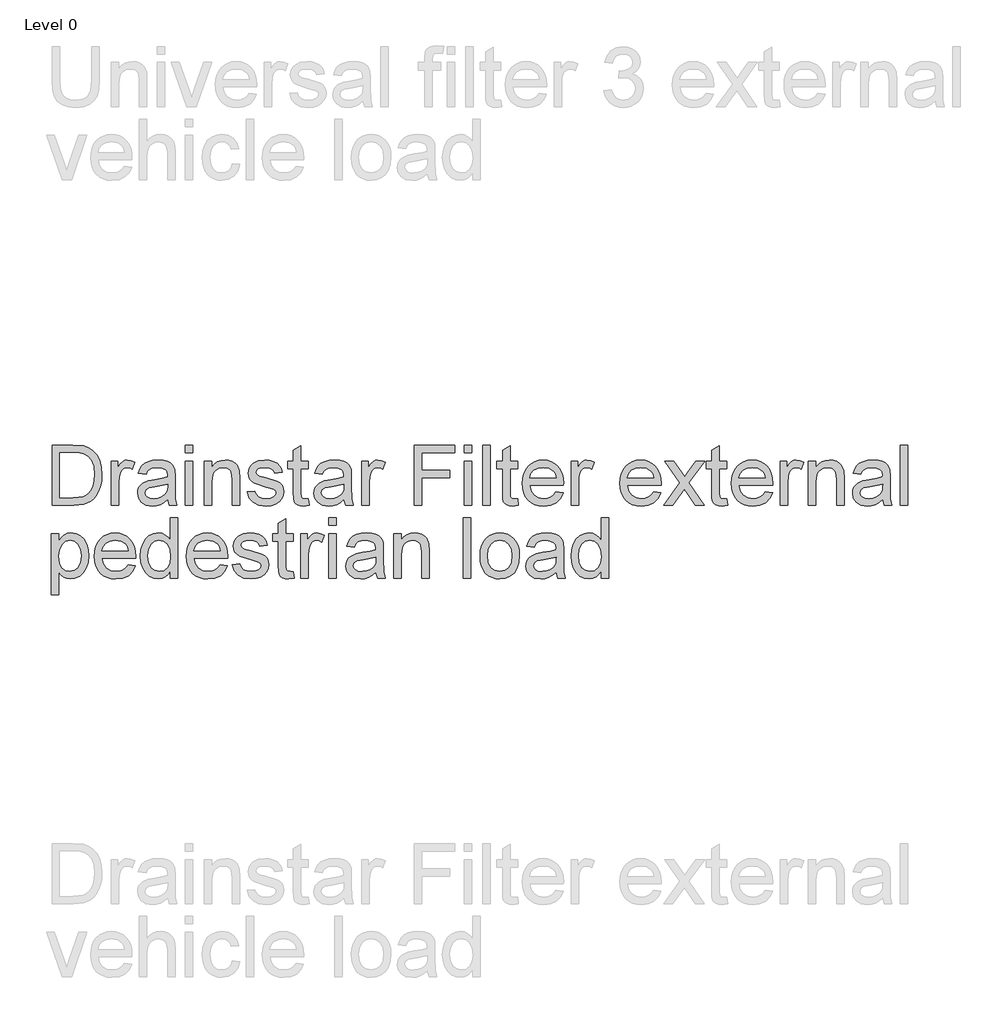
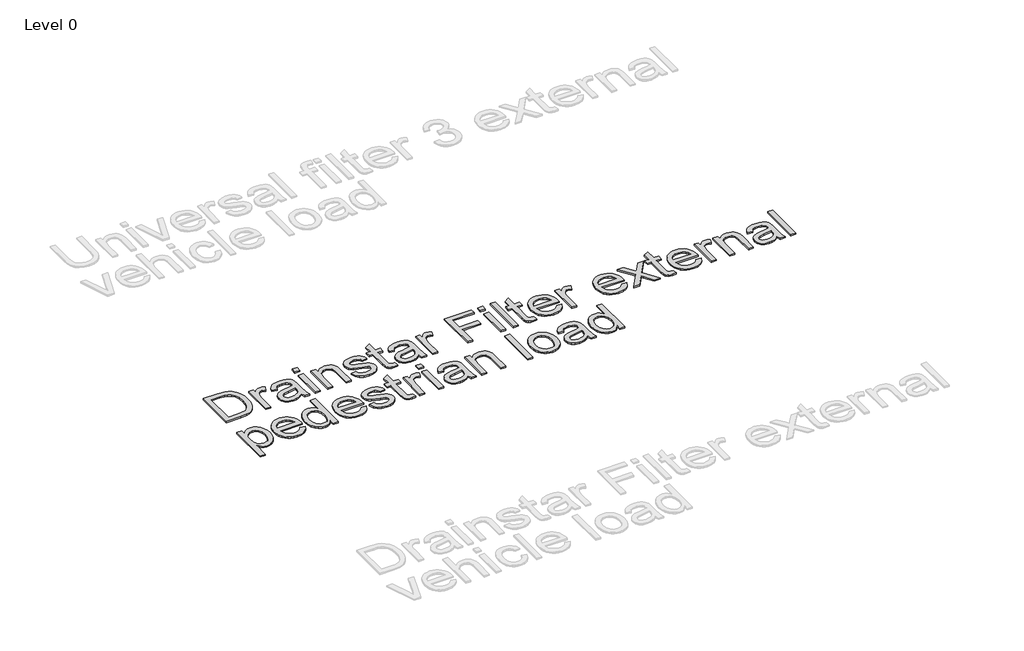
# One storey, part 2 of 10: 1 proxy.
"""IFC4 building model written with IfcOpenShell, lengths in millimetres."""

import ifcopenshell
import ifcopenshell.guid

model = None  # the IFC model being written
_history = None  # IfcOwnerHistory: only IFC2X3 demands one
_inside = {}  # id of a spatial element -> (the spatial element, [elements in it])
_under = {}  # id of a project, library or spatial element -> (it, [spatial elements below it])
_declared = {}  # id of a project -> (the project, [libraries it declares])
_typed = {}  # id of a type object -> (the type object, [elements of that type])
_made_of = {}  # id of a material, layer set ... -> (it, [elements and type objects made of it])


def new_model(schema):
    """Start an empty IFC model of exactly this schema.

    Asked for "IFC4X3", IfcOpenShell would pick the latest addendum, in which some entities
    have other attributes; the version numbers below select the first issue.
    IFC2X3 requires an IfcOwnerHistory on every rooted entity: one is made here for all.
    """
    global model, _history
    if schema == "IFC4X3":
        model = ifcopenshell.file(schema_version=(4, 3, 0, 0))
    else:
        model = ifcopenshell.file(schema=schema)
    _inside.clear()
    _under.clear()
    _declared.clear()
    _typed.clear()
    _made_of.clear()
    _history = None
    if model.schema == "IFC2X3":
        org = make("IfcOrganization", Name="unknown")
        user = make(
            "IfcPersonAndOrganization",
            ThePerson=make("IfcPerson", FamilyName="unknown"),
            TheOrganization=org,
        )
        app = make(
            "IfcApplication",
            ApplicationDeveloper=org,
            Version="unknown",
            ApplicationFullName="unknown",
            ApplicationIdentifier="unknown",
        )
        _history = make(
            "IfcOwnerHistory",
            OwningUser=user,
            OwningApplication=app,
            ChangeAction="ADDED",
            CreationDate=0,
        )
    return model


def make(cls, **values):
    """One entity of the class cls with the attributes given. An attribute that is None is left unset."""
    return model.create_entity(
        cls, **{name: value for name, value in values.items() if value is not None}
    )


def rooted(cls, **values):
    """An entity with a GlobalId (a new one), such as an element, a storey or a relation."""
    return make(cls, GlobalId=ifcopenshell.guid.new(), OwnerHistory=_history, **values)


def si_unit(unit_type, name, prefix=None):
    """IfcSIUnit, for example si_unit("LENGTHUNIT", "METRE", prefix="MILLI")."""
    return make("IfcSIUnit", UnitType=unit_type, Prefix=prefix, Name=name)


def assignment(units):
    """IfcUnitAssignment: the units of a project."""
    return None if units is None else make("IfcUnitAssignment", Units=units)


def point(xyz):
    """IfcCartesianPoint."""
    return None if xyz is None else make("IfcCartesianPoint", Coordinates=xyz)


def direction(xyz):
    """IfcDirection."""
    return None if xyz is None else make("IfcDirection", DirectionRatios=xyz)


def frame(location, z_axis=None, x_axis=None):
    """IfcAxis2Placement3D, a coordinate frame: its origin and axes. An axis left out is left unset."""
    return make(
        "IfcAxis2Placement3D",
        Location=point(location),
        Axis=direction(z_axis),
        RefDirection=direction(x_axis),
    )


def origin():
    """The frame at (0, 0, 0) with its axes left unset."""
    return frame((0.0, 0.0, 0.0))


def origin_with_axes():
    """The frame at (0, 0, 0) with the z axis (0, 0, 1) and the x axis (1, 0, 0) written out."""
    return frame((0.0, 0.0, 0.0), z_axis=(0.0, 0.0, 1.0), x_axis=(1.0, 0.0, 0.0))


def place(relative_to, where):
    """IfcLocalPlacement: puts the frame where relative to a parent placement (None: the world)."""
    return make(
        "IfcLocalPlacement", PlacementRelTo=relative_to, RelativePlacement=where
    )


def context(
    kind, dimensions, precision=None, world=None, true_north=None, identifier=None
):
    """IfcGeometricRepresentationContext, for example the 3D "Model" context."""
    return make(
        "IfcGeometricRepresentationContext",
        ContextIdentifier=identifier,
        ContextType=kind,
        CoordinateSpaceDimension=dimensions,
        Precision=precision,
        WorldCoordinateSystem=world,
        TrueNorth=true_north,
    )


def project(units=None, contexts=None):
    """IfcProject with its units and contexts."""
    return rooted(
        "IfcProject",
        Name="project",
        RepresentationContexts=contexts,
        UnitsInContext=assignment(units),
    )


def spatial(cls, under=None, at=None, **own):
    """A site, building, storey or space (cls), placed at a placement, below another one or the project."""
    s = rooted(cls, ObjectPlacement=at, **own)
    if under is not None:
        _under.setdefault(under.id(), (under, []))[1].append(s)
    return s


def polyline(points):
    """IfcPolyline through the points."""
    return make("IfcPolyline", Points=[point(p) for p in points])


def outline(outer, holes=None, kind="AREA"):
    """IfcArbitraryClosedProfileDef: a profile drawn as a closed curve; with holes, ...WithVoids."""
    if holes is None:
        return make("IfcArbitraryClosedProfileDef", ProfileType=kind, OuterCurve=outer)
    return make(
        "IfcArbitraryProfileDefWithVoids",
        ProfileType=kind,
        OuterCurve=outer,
        InnerCurves=holes,
    )


def extrude(swept, where, along, depth):
    """IfcExtrudedAreaSolid: the profile swept, set in the frame where, extruded along a direction by depth."""
    return make(
        "IfcExtrudedAreaSolid",
        SweptArea=swept,
        Position=where,
        ExtrudedDirection=direction(along),
        Depth=depth,
    )


def shape(context_of_items, identifier, shape_type, items):
    """IfcShapeRepresentation: the items that make up one representation, for example the "Body"."""
    return make(
        "IfcShapeRepresentation",
        ContextOfItems=context_of_items,
        RepresentationIdentifier=identifier,
        RepresentationType=shape_type,
        Items=items,
    )


def made_of(thing, what):
    """Note that an element or type object is made of a material, layer set ...; save() writes the relation."""
    if what is not None:
        _made_of.setdefault(what.id(), (what, []))[1].append(thing)
    return thing


def element(
    cls,
    number,
    at=None,
    inside=None,
    cuts=None,
    type_object=None,
    material=None,
    context=None,
    identifier="Body",
    shape_type=None,
    held_by="IfcProductDefinitionShape",
    body=None,
    shapes=None,
    **own,
):
    """One element of the class cls, such as IfcWall. Its Tag is "e" and its number.

    at: its placement. inside: the storey or other place that contains it. cuts: it is an
    opening in that element (IfcRelVoidsElement). A single representation is given by context,
    identifier, shape_type and body (its items); several are given by shapes. held_by: the class
    of the entity that holds the representations. save() writes the other relations.
    """
    e = rooted(cls, Tag="e%d" % number, ObjectPlacement=at, **own)
    if body is not None:
        shapes = [shape(context, identifier, shape_type, body)]
    if shapes is not None:
        e.Representation = make(held_by, Representations=shapes)
    if inside is not None:
        _inside.setdefault(inside.id(), (inside, []))[1].append(e)
    if cuts is not None:
        rooted(
            "IfcRelVoidsElement", RelatingBuildingElement=cuts, RelatedOpeningElement=e
        )
    if type_object is not None:
        _typed.setdefault(type_object.id(), (type_object, []))[1].append(e)
    return made_of(e, material)


def aggregate(whole, parts):
    """IfcRelAggregates: a whole, such as a stair, and the parts it consists of."""
    return rooted("IfcRelAggregates", RelatingObject=whole, RelatedObjects=parts)


def save(model, path):
    """Write the relations noted so far, then the file.

    IfcRelAggregates (storeys below a building ...), IfcRelContainedInSpatialStructure (elements
    in a storey), IfcRelDefinesByType, IfcRelAssociatesMaterial and IfcRelDeclares: one each for
    every whole, place, type object, material and project.
    """
    for whole, parts in _under.values():
        aggregate(whole, parts)
    for where, things in _inside.values():
        rooted(
            "IfcRelContainedInSpatialStructure",
            RelatedElements=things,
            RelatingStructure=where,
        )
    for kind, things in _typed.values():
        rooted("IfcRelDefinesByType", RelatedObjects=things, RelatingType=kind)
    for what, things in _made_of.values():
        rooted("IfcRelAssociatesMaterial", RelatedObjects=things, RelatingMaterial=what)
    for by, libraries in _declared.values():
        rooted("IfcRelDeclares", RelatingContext=by, RelatedDefinitions=libraries)
    model.write(path)


model = new_model("IFC4")

# Units and contexts
model_context = context("Model", 3, world=origin())
ifc_project = project(units=[si_unit("LENGTHUNIT", "METRE", prefix="MILLI")], contexts=[model_context])

# Site, building, storey
site = spatial("IfcSite", under=ifc_project)
building = spatial("IfcBuilding", under=site)
storey = spatial("IfcBuildingStorey", under=building, Name="Level 0", Elevation=0.0)

# Proxy
placement = place(None, origin())
element("IfcBuildingElementProxy", 1, Name="300mm Arial", ObjectType="300mm Arial", at=placement, inside=storey, context=model_context, shape_type="SweptSolid", body=[
    extrude(outline(polyline([(-15382.3152979, 2427.0720402), (-15382.3152979, 2728.4409706), (-15278.3518461, 2728.4409706), (-15224.5674984, 2724.0999631), (-15200.5448041, 2715.7306477), (-15180.2745062, 2702.5420782), (-15159.4339912, 2679.5862417), (-15144.5899527, 2651.0385989), (-15135.7056025, 2617.4509727), (-15132.7441524, 2579.3751862), (-15134.7491093, 2547.0291618), (-15140.7639799, 2518.5642924), (-15149.9242416, 2494.330066), (-15161.3653716, 2474.6759704), (-15174.5355471, 2459.1605472), (-15188.8829449, 2447.3423381), (-15205.3548612, 2438.5775496), (-15224.8985922, 2432.2223881), (-15273.348651, 2427.0720402), (-15382.3152979, 2427.0720402)]), holes=[polyline([(-15344.6441816, 2464.7431565), (-15277.9839641, 2464.7431565), (-15250.4112086, 2466.1043199), (-15229.4971172, 2470.18781), (-15213.7149796, 2476.7545036), (-15201.5380855, 2485.5652774), (-15188.4506835, 2501.8716469), (-15178.6190372, 2522.9788763), (-15172.4662108, 2548.9789363), (-15170.4152687, 2579.9637974), (-15174.4343795, 2621.0194281), (-15186.4917119, 2651.3329045), (-15204.3063975, 2672.1550254), (-15225.597568, 2684.7365896), (-15247.2658175, 2689.2615382), (-15279.0140337, 2690.7698543), (-15344.6441816, 2690.7698543), (-15344.6441816, 2464.7431565)])]), origin_with_axes(), (0.0, 0.0, 1.0), 10.0),
    extrude(outline(polyline([(-15085.655257, 2427.0720402), (-15085.655257, 2648.3898485), (-15052.6930303, 2648.3898485), (-15052.6930303, 2615.6483509), (-15040.5161362, 2634.6310619), (-15029.2957354, 2645.8146745), (-15018.0385463, 2651.2777222), (-15005.7512877, 2653.098738), (-14986.9893059, 2650.1924703), (-14967.9330186, 2641.473667), (-14980.5145828, 2607.7020998), (-14993.7583346, 2613.4962413), (-15007.0020865, 2615.4276217), (-15018.2500785, 2613.5698177), (-15028.302454, 2607.9964054), (-15036.423449, 2599.1304493), (-15041.8772996, 2587.3950137), (-15046.4574305, 2566.3521636), (-15047.9841407, 2543.3963271), (-15047.9841407, 2427.0720402), (-15085.655257, 2427.0720402)])), origin_with_axes(), (0.0, 0.0, 1.0), 10.0),
    extrude(outline(polyline([(-14803.1218847, 2455.3253774), (-14821.1205114, 2439.8927277), (-14839.6525669, 2429.794367), (-14859.1411156, 2424.2209547), (-14880.0092217, 2422.3631507), (-14911.4907235, 2426.8329169), (-14934.7132744, 2440.2422156), (-14949.0330811, 2460.6044841), (-14953.80635, 2485.9331594), (-14952.0037282, 2501.5497501), (-14946.5958629, 2515.731601), (-14938.2541386, 2527.8717069), (-14927.6499401, 2537.3630624), (-14901.2728011, 2549.7238974), (-14868.6784563, 2555.3892801), (-14830.1612114, 2561.3489684), (-14803.3426139, 2568.3387263), (-14803.1218847, 2576.7264358), (-14805.7154528, 2593.538643), (-14813.496157, 2604.5383147), (-14830.8969754, 2612.705295), (-14855.1403989, 2615.4276217), (-14877.5812006, 2613.6158029), (-14893.2529736, 2608.1803464), (-14903.9399455, 2598.1279709), (-14911.4263441, 2582.465395), (-14949.0974604, 2587.1742845), (-14942.558358, 2607.7756762), (-14932.800288, 2623.962484), (-14918.9127427, 2636.3417132), (-14899.9852141, 2645.5203689), (-14876.8362395, 2651.2041458), (-14850.2843565, 2653.098738), (-14824.8177254, 2651.424875), (-14804.6302009, 2646.4032857), (-14789.4090834, 2638.8525078), (-14778.8416731, 2629.5910785), (-14771.8335211, 2618.1407514), (-14767.2901784, 2604.0232799), (-14765.4507684, 2571.0610531), (-14765.4507684, 2524.1928869), (-14763.5377821, 2458.74668), (-14756.0329894, 2427.0720402), (-14793.7041057, 2427.0720402), (-14803.1218847, 2455.3253774)]), holes=[polyline([(-14803.1218847, 2530.66761), (-14863.8959903, 2519.1161154), (-14896.3063941, 2513.0092743), (-14910.9848857, 2503.0764604), (-14916.1352337, 2488.5819098), (-14913.3301334, 2477.379903), (-14904.9148328, 2468.2012473), (-14891.0732727, 2462.076012), (-14871.9893942, 2460.034267), (-14851.7558845, 2462.2875442), (-14833.8768195, 2469.0473758), (-14819.3822689, 2479.0077809), (-14809.3023023, 2490.8627782), (-14804.832536, 2503.0764604), (-14803.3426139, 2519.9990322), (-14803.1218847, 2530.66761)])]), origin_with_axes(), (0.0, 0.0, 1.0), 10.0),
    extrude(outline(polyline([(-14713.6529835, 2690.7698543), (-14713.6529835, 2728.4409706), (-14675.9818672, 2728.4409706), (-14675.9818672, 2690.7698543), (-14713.6529835, 2690.7698543)])), origin_with_axes(), (0.0, 0.0, 1.0), 10.0),
    extrude(outline(polyline([(-14713.6529835, 2427.0720402), (-14713.6529835, 2648.3898485), (-14675.9818672, 2648.3898485), (-14675.9818672, 2427.0720402), (-14713.6529835, 2427.0720402)])), origin_with_axes(), (0.0, 0.0, 1.0), 10.0),
    extrude(outline(polyline([(-14619.4751927, 2427.0720402), (-14619.4751927, 2648.3898485), (-14581.8040764, 2648.3898485), (-14581.8040764, 2617.4877609), (-14568.7166745, 2633.0675634), (-14552.9989162, 2644.1959938), (-14534.6508017, 2650.873052), (-14513.6723309, 2653.098738), (-14495.1034872, 2651.3053133), (-14478.098142, 2645.9250391), (-14463.9162911, 2637.6293001), (-14453.8179303, 2627.089481), (-14442.5239531, 2599.3879667), (-14440.5373903, 2562.9676492), (-14440.5373903, 2427.0720402), (-14478.2085066, 2427.0720402), (-14478.2085066, 2557.8908777), (-14482.5495141, 2591.2209864), (-14488.5551877, 2601.1446033), (-14497.8901933, 2608.842534), (-14509.8555552, 2613.7813498), (-14523.7522976, 2615.4276217), (-14545.8160203, 2611.7304077), (-14564.6239873, 2600.6387655), (-14572.1402763, 2591.5842699), (-14577.5090541, 2579.2096393), (-14581.8040764, 2544.4999731), (-14581.8040764, 2427.0720402), (-14619.4751927, 2427.0720402)])), origin_with_axes(), (0.0, 0.0, 1.0), 10.0),
    extrude(outline(polyline([(-14402.866274, 2492.9964937), (-14365.1951577, 2497.7053833), (-14359.2538635, 2481.5921519), (-14347.7575511, 2469.7463516), (-14330.6326442, 2462.4622881), (-14307.8055664, 2460.034267), (-14285.2544001, 2462.259953), (-14269.3986861, 2468.9370112), (-14260.0176953, 2478.6123077), (-14256.8906983, 2489.8327086), (-14260.0360894, 2499.4344286), (-14269.4722625, 2506.7552804), (-14308.2470248, 2517.4974346), (-14364.9744285, 2535.9283226), (-14379.3310233, 2545.1897518), (-14389.7328868, 2557.4494193), (-14396.05126, 2571.9255758), (-14398.1573845, 2587.8364721), (-14396.4651273, 2602.4321902), (-14391.3883557, 2615.9058683), (-14383.3869223, 2627.7240774), (-14372.9206796, 2637.3533886), (-14348.9715617, 2648.5002131), (-14316.5611579, 2653.098738), (-14292.0418229, 2651.250131), (-14270.7230613, 2645.7043099), (-14253.5797603, 2637.0039007), (-14241.5868073, 2625.6915294), (-14233.6405562, 2610.9302643), (-14228.6373611, 2591.883174), (-14266.3084774, 2587.1742845), (-14271.0633522, 2599.0292818), (-14280.4719342, 2607.9596172), (-14294.626194, 2613.5606206), (-14313.618102, 2615.4276217), (-14335.2495633, 2613.6433941), (-14349.6705375, 2608.290711), (-14357.7823355, 2600.5651891), (-14360.4862681, 2591.6624448), (-14355.9981078, 2580.6995614), (-14341.9450156, 2572.3854283), (-14309.4978236, 2564.3656008), (-14254.2051597, 2546.6336886), (-14239.6002445, 2538.1540086), (-14228.5269965, 2526.5473317), (-14221.5464356, 2511.7768696), (-14219.219582, 2493.8058341), (-14221.9511058, 2475.2277934), (-14230.1456773, 2457.7533986), (-14243.4905966, 2442.7530102), (-14261.6731642, 2431.5969887), (-14283.6357194, 2424.6716102), (-14308.3206012, 2422.3631507), (-14346.3044172, 2426.8145228), (-14374.0243256, 2440.1686392), (-14392.5287899, 2462.2783471), (-14402.866274, 2492.9964937)])), origin_with_axes(), (0.0, 0.0, 1.0), 10.0),
    extrude(outline(polyline([(-14096.788454, 2458.4891626), (-14092.0795645, 2425.9683942), (-14120.2593253, 2422.3631507), (-14138.3407254, 2423.9266491), (-14151.8236005, 2428.6171446), (-14161.3517442, 2435.8460258), (-14167.5689499, 2445.0246816), (-14170.9902524, 2460.7884251), (-14172.1306866, 2487.7725694), (-14172.1306866, 2610.7187322), (-14200.3840238, 2610.7187322), (-14200.3840238, 2648.3898485), (-14172.1306866, 2648.3898485), (-14172.1306866, 2702.1741962), (-14134.4595703, 2724.3206923), (-14134.4595703, 2648.3898485), (-14096.788454, 2648.3898485), (-14096.788454, 2610.7187322), (-14134.4595703, 2610.7187322), (-14134.4595703, 2488.8762154), (-14132.4730075, 2469.452046), (-14126.0350726, 2462.5726527), (-14113.195991, 2460.034267), (-14096.788454, 2458.4891626)])), origin_with_axes(), (0.0, 0.0, 1.0), 10.0),
    extrude(outline(polyline([(-13917.8506515, 2455.3253774), (-13935.8492782, 2439.8927277), (-13954.3813337, 2429.794367), (-13973.8698824, 2424.2209547), (-13994.7379885, 2422.3631507), (-14026.2194903, 2426.8329169), (-14049.4420412, 2440.2422156), (-14063.7618479, 2460.6044841), (-14068.5351168, 2485.9331594), (-14066.732495, 2501.5497501), (-14061.3246297, 2515.731601), (-14052.9829054, 2527.8717069), (-14042.3787069, 2537.3630624), (-14016.0015679, 2549.7238974), (-13983.4072231, 2555.3892801), (-13944.8899782, 2561.3489684), (-13918.0713807, 2568.3387263), (-13917.8506515, 2576.7264358), (-13920.4442196, 2593.538643), (-13928.2249238, 2604.5383147), (-13945.6257422, 2612.705295), (-13969.8691657, 2615.4276217), (-13992.3099674, 2613.6158029), (-14007.9817404, 2608.1803464), (-14018.6687123, 2598.1279709), (-14026.1551109, 2582.465395), (-14063.8262272, 2587.1742845), (-14057.2871248, 2607.7756762), (-14047.5290548, 2623.962484), (-14033.6415095, 2636.3417132), (-14014.7139809, 2645.5203689), (-13991.5650063, 2651.2041458), (-13965.0131233, 2653.098738), (-13939.5464922, 2651.424875), (-13919.3589677, 2646.4032857), (-13904.1378502, 2638.8525078), (-13893.5704399, 2629.5910785), (-13886.5622879, 2618.1407514), (-13882.0189452, 2604.0232799), (-13880.1795352, 2571.0610531), (-13880.1795352, 2524.1928869), (-13878.2665489, 2458.74668), (-13870.7617562, 2427.0720402), (-13908.4328725, 2427.0720402), (-13917.8506515, 2455.3253774)]), holes=[polyline([(-13917.8506515, 2530.66761), (-13978.6247572, 2519.1161154), (-14011.0351609, 2513.0092743), (-14025.7136525, 2503.0764604), (-14030.8640005, 2488.5819098), (-14028.0589003, 2477.379903), (-14019.6435996, 2468.2012473), (-14005.8020395, 2462.076012), (-13986.718161, 2460.034267), (-13966.4846513, 2462.2875442), (-13948.6055863, 2469.0473758), (-13934.1110357, 2479.0077809), (-13924.0310691, 2490.8627782), (-13919.5613028, 2503.0764604), (-13918.0713807, 2519.9990322), (-13917.8506515, 2530.66761)])]), origin_with_axes(), (0.0, 0.0, 1.0), 10.0),
    extrude(outline(polyline([(-13828.3817503, 2427.0720402), (-13828.3817503, 2648.3898485), (-13795.4195236, 2648.3898485), (-13795.4195236, 2615.6483509), (-13783.2426295, 2634.6310619), (-13772.0222287, 2645.8146745), (-13760.7650396, 2651.2777222), (-13748.477781, 2653.098738), (-13729.7157992, 2650.1924703), (-13710.6595119, 2641.473667), (-13723.2410761, 2607.7020998), (-13736.4848279, 2613.4962413), (-13749.7285798, 2615.4276217), (-13760.9765718, 2613.5698177), (-13771.0289473, 2607.9964054), (-13779.1499423, 2599.1304493), (-13784.6037929, 2587.3950137), (-13789.1839237, 2566.3521636), (-13790.710634, 2543.3963271), (-13790.710634, 2427.0720402), (-13828.3817503, 2427.0720402)])), origin_with_axes(), (0.0, 0.0, 1.0), 10.0),
    extrude(outline(polyline([(-13564.6839362, 2427.0720402), (-13564.6839362, 2728.4409706), (-13362.201686, 2728.4409706), (-13362.201686, 2690.7698543), (-13527.0128199, 2690.7698543), (-13527.0128199, 2601.3009531), (-13385.7461337, 2601.3009531), (-13385.7461337, 2563.6298368), (-13527.0128199, 2563.6298368), (-13527.0128199, 2427.0720402), (-13564.6839362, 2427.0720402)])), origin_with_axes(), (0.0, 0.0, 1.0), 10.0),
    extrude(outline(polyline([(-13315.1127907, 2690.7698543), (-13315.1127907, 2728.4409706), (-13277.4416743, 2728.4409706), (-13277.4416743, 2690.7698543), (-13315.1127907, 2690.7698543)])), origin_with_axes(), (0.0, 0.0, 1.0), 10.0),
    extrude(outline(polyline([(-13315.1127907, 2427.0720402), (-13315.1127907, 2648.3898485), (-13277.4416743, 2648.3898485), (-13277.4416743, 2427.0720402), (-13315.1127907, 2427.0720402)])), origin_with_axes(), (0.0, 0.0, 1.0), 10.0),
    extrude(outline(polyline([(-13220.9349999, 2427.0720402), (-13220.9349999, 2728.4409706), (-13183.2638836, 2728.4409706), (-13183.2638836, 2427.0720402), (-13220.9349999, 2427.0720402)])), origin_with_axes(), (0.0, 0.0, 1.0), 10.0),
    extrude(outline(polyline([(-13046.706087, 2458.4891626), (-13041.9971974, 2425.9683942), (-13070.1769583, 2422.3631507), (-13088.2583583, 2423.9266491), (-13101.7412334, 2428.6171446), (-13111.2693771, 2435.8460258), (-13117.4865828, 2445.0246816), (-13120.9078854, 2460.7884251), (-13122.0483196, 2487.7725694), (-13122.0483196, 2610.7187322), (-13150.3016568, 2610.7187322), (-13150.3016568, 2648.3898485), (-13122.0483196, 2648.3898485), (-13122.0483196, 2702.1741962), (-13084.3772033, 2724.3206923), (-13084.3772033, 2648.3898485), (-13046.706087, 2648.3898485), (-13046.706087, 2610.7187322), (-13084.3772033, 2610.7187322), (-13084.3772033, 2488.8762154), (-13082.3906405, 2469.452046), (-13075.9527056, 2462.5726527), (-13063.113624, 2460.034267), (-13046.706087, 2458.4891626)])), origin_with_axes(), (0.0, 0.0, 1.0), 10.0),
    extrude(outline(polyline([(-12854.0830743, 2492.9964937), (-12817.147722, 2488.2876042), (-12830.4558532, 2460.4573313), (-12851.6918413, 2439.6536044), (-12880.3774399, 2426.6857641), (-12916.0344023, 2422.3631507), (-12939.4087046, 2424.2278525), (-12960.235424, 2429.8219581), (-12978.5145606, 2439.1454674), (-12994.2461145, 2452.1983805), (-13006.8966566, 2468.6174138), (-13015.9327581, 2488.0392838), (-13021.354419, 2510.4639907), (-13023.1616393, 2535.8915344), (-13021.3360249, 2562.1813015), (-13015.8591817, 2585.3532686), (-13006.7311097, 2605.4074359), (-12993.9518089, 2622.3438032), (-12978.2616418, 2635.7990872), (-12960.4009709, 2645.4100043), (-12940.3697963, 2651.1765546), (-12918.1681179, 2653.098738), (-12896.6815101, 2651.1811531), (-12877.2504429, 2645.4283984), (-12859.8749165, 2635.8404739), (-12844.5549306, 2622.4173796), (-12832.049242, 2605.5178005), (-12823.1166074, 2585.5004214), (-12817.7570265, 2562.3652424), (-12815.9704996, 2536.1122636), (-12816.1912288, 2525.9587205), (-12985.490523, 2525.9587205), (-12978.9698146, 2497.7605656), (-12963.8222735, 2477.0304151), (-12941.9608859, 2464.283304), (-12915.2986383, 2460.034267), (-12895.2490696, 2462.0024356), (-12878.363286, 2467.9069417), (-12864.6412876, 2478.115667), (-12854.0830743, 2492.9964937)]), holes=[polyline([(-12985.490523, 2563.6298368), (-12853.6416159, 2563.6298368), (-12858.7367815, 2583.5322527), (-12868.7247777, 2597.769286), (-12890.6873328, 2611.0130378), (-12918.3152707, 2615.4276217), (-12943.7083254, 2611.9051516), (-12964.7051902, 2601.3377413), (-12979.3009084, 2584.865825), (-12985.490523, 2563.6298368)])]), origin_with_axes(), (0.0, 0.0, 1.0), 10.0),
    extrude(outline(polyline([(-12778.2993833, 2427.0720402), (-12778.2993833, 2648.3898485), (-12745.3371565, 2648.3898485), (-12745.3371565, 2615.6483509), (-12733.1602625, 2634.6310619), (-12721.9398616, 2645.8146745), (-12710.6826726, 2651.2777222), (-12698.3954139, 2653.098738), (-12679.6334322, 2650.1924703), (-12660.5771448, 2641.473667), (-12673.1587091, 2607.7020998), (-12686.4024609, 2613.4962413), (-12699.6462127, 2615.4276217), (-12710.8942047, 2613.5698177), (-12720.9465802, 2607.9964054), (-12729.0675753, 2599.1304493), (-12734.5214259, 2587.3950137), (-12739.1015567, 2566.3521636), (-12740.628267, 2543.3963271), (-12740.628267, 2427.0720402), (-12778.2993833, 2427.0720402)])), origin_with_axes(), (0.0, 0.0, 1.0), 10.0),
    extrude(outline(polyline([(-12364.3585623, 2492.9964937), (-12327.42321, 2488.2876042), (-12340.7313412, 2460.4573313), (-12361.9673293, 2439.6536044), (-12390.6529279, 2426.6857641), (-12426.3098903, 2422.3631507), (-12449.6841926, 2424.2278525), (-12470.510912, 2429.8219581), (-12488.7900487, 2439.1454674), (-12504.5216025, 2452.1983805), (-12517.1721446, 2468.6174138), (-12526.2082461, 2488.0392838), (-12531.629907, 2510.4639907), (-12533.4371273, 2535.8915344), (-12531.6115129, 2562.1813015), (-12526.1346697, 2585.3532686), (-12517.0065977, 2605.4074359), (-12504.2272969, 2622.3438032), (-12488.5371298, 2635.7990872), (-12470.6764589, 2645.4100043), (-12450.6452843, 2651.1765546), (-12428.4436059, 2653.098738), (-12406.9569981, 2651.1811531), (-12387.525931, 2645.4283984), (-12370.1504045, 2635.8404739), (-12354.8304186, 2622.4173796), (-12342.3247301, 2605.5178005), (-12333.3920954, 2585.5004214), (-12328.0325146, 2562.3652424), (-12326.2459876, 2536.1122636), (-12326.4667168, 2525.9587205), (-12495.766011, 2525.9587205), (-12489.2453026, 2497.7605656), (-12474.0977615, 2477.0304151), (-12452.2363739, 2464.283304), (-12425.5741263, 2460.034267), (-12405.5245576, 2462.0024356), (-12388.638774, 2467.9069417), (-12374.9167756, 2478.115667), (-12364.3585623, 2492.9964937)]), holes=[polyline([(-12495.766011, 2563.6298368), (-12363.9171039, 2563.6298368), (-12369.0122696, 2583.5322527), (-12379.0002657, 2597.769286), (-12400.9628208, 2611.0130378), (-12428.5907587, 2615.4276217), (-12453.9838134, 2611.9051516), (-12474.9806783, 2601.3377413), (-12489.5763964, 2584.865825), (-12495.766011, 2563.6298368)])]), origin_with_axes(), (0.0, 0.0, 1.0), 10.0),
    extrude(outline(polyline([(-12312.119319, 2427.0720402), (-12231.6267385, 2538.3195555), (-12307.4104295, 2648.3898485), (-12262.0873677, 2648.3898485), (-12225.5198973, 2595.4148412), (-12208.4501728, 2570.3988655), (-12193.6613166, 2590.8531045), (-12152.0170747, 2648.3898485), (-12106.6940129, 2648.3898485), (-12186.3036766, 2538.3195555), (-12109.6370689, 2427.0720402), (-12154.9601307, 2427.0720402), (-12201.0925329, 2493.9529869), (-12209.5538187, 2506.1666692), (-12266.7962572, 2427.0720402), (-12312.119319, 2427.0720402)])), origin_with_axes(), (0.0, 0.0, 1.0), 10.0),
    extrude(outline(polyline([(-11996.6237199, 2458.4891626), (-11991.9148304, 2425.9683942), (-12020.0945912, 2422.3631507), (-12038.1759913, 2423.9266491), (-12051.6588664, 2428.6171446), (-12061.1870101, 2435.8460258), (-12067.4042158, 2445.0246816), (-12070.8255184, 2460.7884251), (-12071.9659525, 2487.7725694), (-12071.9659525, 2610.7187322), (-12100.2192898, 2610.7187322), (-12100.2192898, 2648.3898485), (-12071.9659525, 2648.3898485), (-12071.9659525, 2702.1741962), (-12034.2948362, 2724.3206923), (-12034.2948362, 2648.3898485), (-11996.6237199, 2648.3898485), (-11996.6237199, 2610.7187322), (-12034.2948362, 2610.7187322), (-12034.2948362, 2488.8762154), (-12032.3082735, 2469.452046), (-12025.8703386, 2462.5726527), (-12013.0312569, 2460.034267), (-11996.6237199, 2458.4891626)])), origin_with_axes(), (0.0, 0.0, 1.0), 10.0),
    extrude(outline(polyline([(-11804.0007073, 2492.9964937), (-11767.0653549, 2488.2876042), (-11780.3734861, 2460.4573313), (-11801.6094743, 2439.6536044), (-11830.2950729, 2426.6857641), (-11865.9520352, 2422.3631507), (-11889.3263375, 2424.2278525), (-11910.153057, 2429.8219581), (-11928.4321936, 2439.1454674), (-11944.1637474, 2452.1983805), (-11956.8142895, 2468.6174138), (-11965.850391, 2488.0392838), (-11971.2720519, 2510.4639907), (-11973.0792722, 2535.8915344), (-11971.2536578, 2562.1813015), (-11965.7768146, 2585.3532686), (-11956.6487426, 2605.4074359), (-11943.8694418, 2622.3438032), (-11928.1792747, 2635.7990872), (-11910.3186039, 2645.4100043), (-11890.2874292, 2651.1765546), (-11868.0857508, 2653.098738), (-11846.599143, 2651.1811531), (-11827.1680759, 2645.4283984), (-11809.7925494, 2635.8404739), (-11794.4725636, 2622.4173796), (-11781.966875, 2605.5178005), (-11773.0342403, 2585.5004214), (-11767.6746595, 2562.3652424), (-11765.8881326, 2536.1122636), (-11766.1088618, 2525.9587205), (-11935.4081559, 2525.9587205), (-11928.8874476, 2497.7605656), (-11913.7399064, 2477.0304151), (-11891.8785189, 2464.283304), (-11865.2162713, 2460.034267), (-11845.1667025, 2462.0024356), (-11828.2809189, 2467.9069417), (-11814.5589205, 2478.115667), (-11804.0007073, 2492.9964937)]), holes=[polyline([(-11935.4081559, 2563.6298368), (-11803.5592489, 2563.6298368), (-11808.6544145, 2583.5322527), (-11818.6424107, 2597.769286), (-11840.6049658, 2611.0130378), (-11868.2329036, 2615.4276217), (-11893.6259583, 2611.9051516), (-11914.6228232, 2601.3377413), (-11929.2185414, 2584.865825), (-11935.4081559, 2563.6298368)])]), origin_with_axes(), (0.0, 0.0, 1.0), 10.0),
    extrude(outline(polyline([(-11728.2170163, 2427.0720402), (-11728.2170163, 2648.3898485), (-11695.2547895, 2648.3898485), (-11695.2547895, 2615.6483509), (-11683.0778954, 2634.6310619), (-11671.8574946, 2645.8146745), (-11660.6003055, 2651.2777222), (-11648.3130469, 2653.098738), (-11629.5510651, 2650.1924703), (-11610.4947778, 2641.473667), (-11623.076342, 2607.7020998), (-11636.3200939, 2613.4962413), (-11649.5638457, 2615.4276217), (-11660.8118377, 2613.5698177), (-11670.8642132, 2607.9964054), (-11678.9852083, 2599.1304493), (-11684.4390588, 2587.3950137), (-11689.0191897, 2566.3521636), (-11690.5458999, 2543.3963271), (-11690.5458999, 2427.0720402), (-11728.2170163, 2427.0720402)])), origin_with_axes(), (0.0, 0.0, 1.0), 10.0),
    extrude(outline(polyline([(-11586.9503301, 2427.0720402), (-11586.9503301, 2648.3898485), (-11549.2792138, 2648.3898485), (-11549.2792138, 2617.4877609), (-11536.1918118, 2633.0675634), (-11520.4740536, 2644.1959938), (-11502.1259391, 2650.873052), (-11481.1474683, 2653.098738), (-11462.5786246, 2651.3053133), (-11445.5732794, 2645.9250391), (-11431.3914284, 2637.6293001), (-11421.2930677, 2627.089481), (-11409.9990904, 2599.3879667), (-11408.0125277, 2562.9676492), (-11408.0125277, 2427.0720402), (-11445.683644, 2427.0720402), (-11445.683644, 2557.8908777), (-11450.0246515, 2591.2209864), (-11456.0303251, 2601.1446033), (-11465.3653307, 2608.842534), (-11477.3306926, 2613.7813498), (-11491.227435, 2615.4276217), (-11513.2911576, 2611.7304077), (-11532.0991246, 2600.6387655), (-11539.6154136, 2591.5842699), (-11544.9841915, 2579.2096393), (-11549.2792138, 2544.4999731), (-11549.2792138, 2427.0720402), (-11586.9503301, 2427.0720402)])), origin_with_axes(), (0.0, 0.0, 1.0), 10.0),
    extrude(outline(polyline([(-11214.9480566, 2455.3253774), (-11232.9466832, 2439.8927277), (-11251.4787387, 2429.794367), (-11270.9672874, 2424.2209547), (-11291.8353936, 2422.3631507), (-11323.3168953, 2426.8329169), (-11346.5394463, 2440.2422156), (-11360.8592529, 2460.6044841), (-11365.6325218, 2485.9331594), (-11363.8299, 2501.5497501), (-11358.4220347, 2515.731601), (-11350.0803105, 2527.8717069), (-11339.476112, 2537.3630624), (-11313.0989729, 2549.7238974), (-11280.5046281, 2555.3892801), (-11241.9873832, 2561.3489684), (-11215.1687858, 2568.3387263), (-11214.9480566, 2576.7264358), (-11217.5416247, 2593.538643), (-11225.3223288, 2604.5383147), (-11242.7231472, 2612.705295), (-11266.9665707, 2615.4276217), (-11289.4073724, 2613.6158029), (-11305.0791454, 2608.1803464), (-11315.7661174, 2598.1279709), (-11323.252516, 2582.465395), (-11360.9236323, 2587.1742845), (-11354.3845298, 2607.7756762), (-11344.6264599, 2623.962484), (-11330.7389146, 2636.3417132), (-11311.8113859, 2645.5203689), (-11288.6624114, 2651.2041458), (-11262.1105284, 2653.098738), (-11236.6438973, 2651.424875), (-11216.4563728, 2646.4032857), (-11201.2352552, 2638.8525078), (-11190.6678449, 2629.5910785), (-11183.6596929, 2618.1407514), (-11179.1163503, 2604.0232799), (-11177.2769403, 2571.0610531), (-11177.2769403, 2524.1928869), (-11175.3639539, 2458.74668), (-11167.8591612, 2427.0720402), (-11205.5302775, 2427.0720402), (-11214.9480566, 2455.3253774)]), holes=[polyline([(-11214.9480566, 2530.66761), (-11275.7221622, 2519.1161154), (-11308.132566, 2513.0092743), (-11322.8110576, 2503.0764604), (-11327.9614055, 2488.5819098), (-11325.1563053, 2477.379903), (-11316.7410047, 2468.2012473), (-11302.8994446, 2462.076012), (-11283.8155661, 2460.034267), (-11263.5820563, 2462.2875442), (-11245.7029914, 2469.0473758), (-11231.2084408, 2479.0077809), (-11221.1284741, 2490.8627782), (-11216.6587079, 2503.0764604), (-11215.1687858, 2519.9990322), (-11214.9480566, 2530.66761)])]), origin_with_axes(), (0.0, 0.0, 1.0), 10.0),
    extrude(outline(polyline([(-11125.4791554, 2427.0720402), (-11125.4791554, 2728.4409706), (-11087.8080391, 2728.4409706), (-11087.8080391, 2427.0720402), (-11125.4791554, 2427.0720402)])), origin_with_axes(), (0.0, 0.0, 1.0), 10.0),
    extrude(outline(polyline([(-15387.0241875, 1976.387575), (-15387.0241875, 2282.465395), (-15349.3530712, 2282.465395), (-15349.3530712, 2245.5300426), (-15337.0658125, 2263.7493985), (-15323.3070259, 2276.763224), (-15307.2673709, 2284.5715194), (-15288.1375072, 2287.1742845), (-15262.661679, 2283.5322527), (-15240.3864242, 2272.6061575), (-15222.2498418, 2255.0581863), (-15209.190031, 2231.5505268), (-15201.2989622, 2203.7938303), (-15198.668606, 2173.498748), (-15201.6392531, 2141.2814823), (-15210.5511944, 2112.467125), (-15225.1193214, 2088.5180071), (-15245.0585255, 2070.8964595), (-15268.2810765, 2060.0531377), (-15292.6992439, 2056.4386971), (-15310.0172888, 2058.8575212), (-15325.4775297, 2066.1139936), (-15338.7120845, 2077.06768), (-15349.3530712, 2090.5781463), (-15349.3530712, 1976.387575), (-15387.0241875, 1976.387575)]), holes=[polyline([(-15349.3530712, 2170.0406572), (-15345.2787781, 2136.2690901), (-15333.0558988, 2112.651066), (-15315.020484, 2098.7451266), (-15293.5085843, 2094.1098134), (-15271.6471967, 2098.9106735), (-15253.1519294, 2113.3132536), (-15240.5427741, 2137.7958004), (-15236.3397223, 2172.8365604), (-15240.4416065, 2206.4241866), (-15252.7472592, 2230.3733044), (-15270.7550829, 2244.7207023), (-15291.9634799, 2249.5031682), (-15313.2546504, 2244.4171996), (-15331.9522528, 2229.1592939), (-15345.0028666, 2204.2076975), (-15349.3530712, 2170.0406572)])]), origin_with_axes(), (0.0, 0.0, 1.0), 10.0),
    extrude(outline(polyline([(-15001.3367037, 2127.0720402), (-14964.4013514, 2122.3631507), (-14977.7094826, 2094.5328777), (-14998.9454708, 2073.7291509), (-15027.6310693, 2060.7613106), (-15063.2880317, 2056.4386971), (-15086.662334, 2058.303399), (-15107.4890535, 2063.8975046), (-15125.7681901, 2073.2210139), (-15141.4997439, 2086.2739269), (-15154.150286, 2102.6929602), (-15163.1863875, 2122.1148303), (-15168.6080484, 2144.5395372), (-15170.4152687, 2169.9670808), (-15168.5896543, 2196.2568479), (-15163.1128111, 2219.4288151), (-15153.9847391, 2239.4829823), (-15141.2054383, 2256.4193497), (-15125.5152712, 2269.8746337), (-15107.6546003, 2279.4855508), (-15087.6234257, 2285.2521011), (-15065.4217473, 2287.1742845), (-15043.9351395, 2285.2566996), (-15024.5040724, 2279.5039449), (-15007.1285459, 2269.9160204), (-14991.8085601, 2256.4929261), (-14979.3028715, 2239.5933469), (-14970.3702368, 2219.5759679), (-14965.010656, 2196.4407889), (-14963.224129, 2170.18781), (-14963.4448582, 2160.034267), (-15132.7441524, 2160.034267), (-15126.2234441, 2131.836112), (-15111.0759029, 2111.1059616), (-15089.2145153, 2098.3588505), (-15062.5522677, 2094.1098134), (-15042.502699, 2096.0779821), (-15025.6169154, 2101.9824881), (-15011.894917, 2112.1912135), (-15001.3367037, 2127.0720402)]), holes=[polyline([(-15132.7441524, 2197.7053833), (-15000.8952453, 2197.7053833), (-15005.990411, 2217.6077992), (-15015.9784072, 2231.8448324), (-15037.9409623, 2245.0885843), (-15065.5689001, 2249.5031682), (-15090.9619548, 2245.9806981), (-15111.9588197, 2235.4132878), (-15126.5545379, 2218.9413714), (-15132.7441524, 2197.7053833)])]), origin_with_axes(), (0.0, 0.0, 1.0), 10.0),
    extrude(outline(polyline([(-14788.9952161, 2061.1475867), (-14788.9952161, 2096.6849874), (-14800.2662008, 2079.0772354), (-14813.9192213, 2066.5002697), (-14829.9542778, 2058.9540903), (-14848.3713701, 2056.4386971), (-14872.7251582, 2060.0807289), (-14895.0188071, 2071.0068241), (-14913.8911535, 2088.4536278), (-14927.9810339, 2111.6577846), (-14936.7550195, 2139.6811956), (-14939.6796814, 2171.5857616), (-14936.9849457, 2203.0948545), (-14928.9007389, 2231.5505268), (-14915.4362579, 2255.3340978), (-14896.6006997, 2272.8268867), (-14873.8196072, 2283.587435), (-14848.5185229, 2287.1742845), (-14830.087635, 2284.6083076), (-14813.7904626, 2276.9103768), (-14799.9764937, 2265.1105618), (-14788.9952161, 2250.2389322), (-14788.9952161, 2362.5165171), (-14751.3240998, 2362.5165171), (-14751.3240998, 2061.1475867), (-14788.9952161, 2061.1475867)]), holes=[polyline([(-14902.008565, 2171.7329144), (-14897.759528, 2137.6578446), (-14885.0124169, 2113.4236182), (-14866.4895584, 2098.9382646), (-14844.9132794, 2094.1098134), (-14823.3461974, 2098.7175354), (-14805.2923885, 2112.5407014), (-14793.0695092, 2135.8368287), (-14788.9952161, 2168.8634348), (-14793.1430856, 2204.9710527), (-14805.5866941, 2230.0054224), (-14824.1003555, 2244.6287318), (-14846.4583838, 2249.5031682), (-14868.255392, 2244.8218698), (-14886.1160629, 2230.7779746), (-14898.0354395, 2206.6541128), (-14902.008565, 2171.7329144)])]), origin_with_axes(), (0.0, 0.0, 1.0), 10.0),
    extrude(outline(polyline([(-14539.865529, 2127.0720402), (-14502.9301767, 2122.3631507), (-14516.2383079, 2094.5328777), (-14537.474296, 2073.7291509), (-14566.1598946, 2060.7613106), (-14601.816857, 2056.4386971), (-14625.1911592, 2058.303399), (-14646.0178787, 2063.8975046), (-14664.2970153, 2073.2210139), (-14680.0285692, 2086.2739269), (-14692.6791113, 2102.6929602), (-14701.7152128, 2122.1148303), (-14707.1368737, 2144.5395372), (-14708.944094, 2169.9670808), (-14707.1184796, 2196.2568479), (-14701.6416364, 2219.4288151), (-14692.5135644, 2239.4829823), (-14679.7342636, 2256.4193497), (-14664.0440965, 2269.8746337), (-14646.1834256, 2279.4855508), (-14626.152251, 2285.2521011), (-14603.9505726, 2287.1742845), (-14582.4639648, 2285.2566996), (-14563.0328976, 2279.5039449), (-14545.6573712, 2269.9160204), (-14530.3373853, 2256.4929261), (-14517.8316967, 2239.5933469), (-14508.899062, 2219.5759679), (-14503.5394812, 2196.4407889), (-14501.7529543, 2170.18781), (-14501.9736835, 2160.034267), (-14671.2729777, 2160.034267), (-14664.7522693, 2131.836112), (-14649.6047282, 2111.1059616), (-14627.7433406, 2098.3588505), (-14601.081093, 2094.1098134), (-14581.0315243, 2096.0779821), (-14564.1457407, 2101.9824881), (-14550.4237423, 2112.1912135), (-14539.865529, 2127.0720402)]), holes=[polyline([(-14671.2729777, 2197.7053833), (-14539.4240706, 2197.7053833), (-14544.5192362, 2217.6077992), (-14554.5072324, 2231.8448324), (-14576.4697875, 2245.0885843), (-14604.0977254, 2249.5031682), (-14629.4907801, 2245.9806981), (-14650.4876449, 2235.4132878), (-14665.0833631, 2218.9413714), (-14671.2729777, 2197.7053833)])]), origin_with_axes(), (0.0, 0.0, 1.0), 10.0),
    extrude(outline(polyline([(-14478.2085066, 2127.0720402), (-14440.5373903, 2131.7809297), (-14434.5960961, 2115.6676983), (-14423.0997837, 2103.8218981), (-14405.9748768, 2096.5378346), (-14383.147799, 2094.1098134), (-14360.5966327, 2096.3354995), (-14344.7409188, 2103.0125577), (-14335.3599279, 2112.6878542), (-14332.2329309, 2123.908255), (-14335.378322, 2133.5099751), (-14344.8144952, 2140.8308268), (-14383.5892574, 2151.5729811), (-14440.3166611, 2170.003869), (-14454.673256, 2179.2652983), (-14465.0751194, 2191.5249658), (-14471.3934926, 2206.0011223), (-14473.4996171, 2221.9120186), (-14471.8073599, 2236.5077367), (-14466.7305884, 2249.9814148), (-14458.729155, 2261.7996239), (-14448.2629122, 2271.4289351), (-14424.3137943, 2282.5757596), (-14391.9033905, 2287.1742845), (-14367.3840556, 2285.3256775), (-14346.0652939, 2279.7798564), (-14328.921993, 2271.0794472), (-14316.9290399, 2259.7670759), (-14308.9827888, 2245.0058108), (-14303.9795937, 2225.9587205), (-14341.65071, 2221.249831), (-14346.4055848, 2233.1048283), (-14355.8141668, 2242.0351637), (-14369.9684266, 2247.6361671), (-14388.9603346, 2249.5031682), (-14410.5917959, 2247.7189405), (-14425.0127701, 2242.3662575), (-14433.1245681, 2234.6407356), (-14435.8285008, 2225.7379913), (-14431.3403404, 2214.7751078), (-14417.2872482, 2206.4609748), (-14384.8400562, 2198.4411473), (-14329.5473924, 2180.7092351), (-14314.9424771, 2172.2295551), (-14303.8692291, 2160.6228782), (-14296.8886682, 2145.8524161), (-14294.5618146, 2127.8813806), (-14297.2933384, 2109.3033398), (-14305.4879099, 2091.8289451), (-14318.8328292, 2076.8285567), (-14337.0153969, 2065.6725352), (-14358.977952, 2058.7471566), (-14383.6628338, 2056.4386971), (-14421.6466498, 2060.8900693), (-14449.3665582, 2074.2441857), (-14467.8710225, 2096.3538936), (-14478.2085066, 2127.0720402)])), origin_with_axes(), (0.0, 0.0, 1.0), 10.0),
    extrude(outline(polyline([(-14172.1306866, 2092.564709), (-14167.4217971, 2060.0439407), (-14195.6015579, 2056.4386971), (-14213.682958, 2058.0021956), (-14227.1658331, 2062.692691), (-14236.6939768, 2069.9215722), (-14242.9111825, 2079.100228), (-14246.332485, 2094.8639715), (-14247.4729192, 2121.8481159), (-14247.4729192, 2244.7942787), (-14275.7262565, 2244.7942787), (-14275.7262565, 2282.465395), (-14247.4729192, 2282.465395), (-14247.4729192, 2336.2497427), (-14209.8018029, 2358.3962388), (-14209.8018029, 2282.465395), (-14172.1306866, 2282.465395), (-14172.1306866, 2244.7942787), (-14209.8018029, 2244.7942787), (-14209.8018029, 2122.9517619), (-14207.8152401, 2103.5275925), (-14201.3773052, 2096.6481992), (-14188.5382236, 2094.1098134), (-14172.1306866, 2092.564709)])), origin_with_axes(), (0.0, 0.0, 1.0), 10.0),
    extrude(outline(polyline([(-14134.4595703, 2061.1475867), (-14134.4595703, 2282.465395), (-14101.4973435, 2282.465395), (-14101.4973435, 2249.7238974), (-14089.3204495, 2268.7066083), (-14078.1000486, 2279.890221), (-14066.8428596, 2285.3532686), (-14054.555601, 2287.1742845), (-14035.7936192, 2284.2680167), (-14016.7373319, 2275.5492135), (-14029.3188961, 2241.7776463), (-14042.5626479, 2247.5717877), (-14055.8063997, 2249.5031682), (-14067.0543917, 2247.6453641), (-14077.1067673, 2242.0719519), (-14085.2277623, 2233.2059958), (-14090.6816129, 2221.4705602), (-14095.2617437, 2200.42771), (-14096.788454, 2177.4718735), (-14096.788454, 2061.1475867), (-14134.4595703, 2061.1475867)])), origin_with_axes(), (0.0, 0.0, 1.0), 10.0),
    extrude(outline(polyline([(-13993.1928842, 2324.8454008), (-13993.1928842, 2362.5165171), (-13955.5217679, 2362.5165171), (-13955.5217679, 2324.8454008), (-13993.1928842, 2324.8454008)])), origin_with_axes(), (0.0, 0.0, 1.0), 10.0),
    extrude(outline(polyline([(-13993.1928842, 2061.1475867), (-13993.1928842, 2282.465395), (-13955.5217679, 2282.465395), (-13955.5217679, 2061.1475867), (-13993.1928842, 2061.1475867)])), origin_with_axes(), (0.0, 0.0, 1.0), 10.0),
    extrude(outline(polyline([(-13757.7484072, 2089.4009239), (-13775.7470339, 2073.9682742), (-13794.2790894, 2063.8699134), (-13813.7676381, 2058.2965012), (-13834.6357442, 2056.4386971), (-13866.117246, 2060.9084634), (-13889.3397969, 2074.3177621), (-13903.6596036, 2094.6800305), (-13908.4328725, 2120.0087059), (-13906.6302507, 2135.6252966), (-13901.2223854, 2149.8071475), (-13892.8806611, 2161.9472533), (-13882.2764626, 2171.4386088), (-13855.8993236, 2183.7994439), (-13823.3049788, 2189.4648266), (-13784.7877339, 2195.4245149), (-13757.9691364, 2202.4142728), (-13757.7484072, 2210.8019823), (-13760.3419753, 2227.6141895), (-13768.1226795, 2238.6138611), (-13785.5234979, 2246.7808414), (-13809.7669214, 2249.5031682), (-13832.2077231, 2247.6913494), (-13847.8794961, 2242.2558929), (-13858.566468, 2232.2035174), (-13866.0528666, 2216.5409414), (-13903.7239829, 2221.249831), (-13897.1848805, 2241.8512227), (-13887.4268105, 2258.0380305), (-13873.5392652, 2270.4172596), (-13854.6117366, 2279.5959154), (-13831.462762, 2285.2796922), (-13804.910879, 2287.1742845), (-13779.4442479, 2285.5004214), (-13759.2567234, 2280.4788322), (-13744.0356059, 2272.9280542), (-13733.4681956, 2263.666625), (-13726.4600436, 2252.2162979), (-13721.9167009, 2238.0988263), (-13720.0772909, 2205.1365996), (-13720.0772909, 2158.2684334), (-13718.1643046, 2092.8222264), (-13710.6595119, 2061.1475867), (-13748.3306282, 2061.1475867), (-13757.7484072, 2089.4009239)]), holes=[polyline([(-13757.7484072, 2164.7431565), (-13818.5225129, 2153.1916619), (-13850.9329166, 2147.0848207), (-13865.6114082, 2137.1520069), (-13870.7617562, 2122.6574563), (-13867.956656, 2111.4554495), (-13859.5413553, 2102.2767937), (-13845.6997952, 2096.1515585), (-13826.6159167, 2094.1098134), (-13806.382407, 2096.3630906), (-13788.503342, 2103.1229223), (-13774.0087914, 2113.0833273), (-13763.9288248, 2124.9383246), (-13759.4590585, 2137.1520069), (-13757.9691364, 2154.0745786), (-13757.7484072, 2164.7431565)])]), origin_with_axes(), (0.0, 0.0, 1.0), 10.0),
    extrude(outline(polyline([(-13668.279506, 2061.1475867), (-13668.279506, 2282.465395), (-13630.6083897, 2282.465395), (-13630.6083897, 2251.5633074), (-13617.5209877, 2267.1431099), (-13601.8032295, 2278.2715402), (-13583.455115, 2284.9485984), (-13562.4766442, 2287.1742845), (-13543.9078005, 2285.3808598), (-13526.9024553, 2280.0005856), (-13512.7206044, 2271.7048466), (-13502.6222436, 2261.1650274), (-13491.3282663, 2233.4635132), (-13489.3417036, 2197.0431957), (-13489.3417036, 2061.1475867), (-13527.0128199, 2061.1475867), (-13527.0128199, 2191.9664241), (-13531.3538274, 2225.2965329), (-13537.359501, 2235.2201497), (-13546.6945066, 2242.9180805), (-13558.6598685, 2247.8568963), (-13572.5566109, 2249.5031682), (-13594.6203335, 2245.8059541), (-13613.4283005, 2234.714312), (-13620.9445896, 2225.6598164), (-13626.3133674, 2213.2851858), (-13630.6083897, 2178.5755195), (-13630.6083897, 2061.1475867), (-13668.279506, 2061.1475867)])), origin_with_axes(), (0.0, 0.0, 1.0), 10.0),
    extrude(outline(polyline([(-13319.8216802, 2061.1475867), (-13319.8216802, 2362.5165171), (-13282.1505639, 2362.5165171), (-13282.1505639, 2061.1475867), (-13319.8216802, 2061.1475867)])), origin_with_axes(), (0.0, 0.0, 1.0), 10.0),
    extrude(outline(polyline([(-13235.0616685, 2171.8064908), (-13233.024522, 2200.4690968), (-13226.9130823, 2225.1677742), (-13216.7273496, 2245.9025232), (-13202.4673237, 2262.6733436), (-13188.1107289, 2273.3925053), (-13172.2642119, 2281.0490493), (-13154.9277729, 2285.6429757), (-13136.1014118, 2287.1742845), (-13115.3183783, 2285.3095826), (-13096.5265062, 2279.715477), (-13079.7257953, 2270.3919677), (-13064.9162457, 2257.3390547), (-13052.8290229, 2240.9981963), (-13044.1952924, 2221.810851), (-13039.015054, 2199.7770188), (-13037.2883079, 2174.8966996), (-13040.3417285, 2136.8393072), (-13049.5019901, 2107.8686), (-13064.5023785, 2086.1727594), (-13085.0761791, 2069.9399663), (-13109.5127406, 2059.8140144), (-13136.1014118, 2056.4386971), (-13157.1879479, 2058.2965012), (-13176.154564, 2063.8699134), (-13193.0012601, 2073.1589338), (-13207.7280363, 2086.1635623), (-13219.6865004, 2102.6630698), (-13228.2282604, 2122.4367271), (-13233.3533165, 2145.4845341), (-13235.0616685, 2171.8064908)]), holes=[polyline([(-13197.3905522, 2171.8800672), (-13193.0311506, 2137.7866033), (-13179.9529456, 2113.4971946), (-13160.2712589, 2098.9566587), (-13136.1014118, 2094.1098134), (-13112.0419293, 2098.9842499), (-13092.3970308, 2113.6075592), (-13079.3188258, 2138.2188647), (-13074.9594242, 2173.0572896), (-13079.346417, 2206.1574721), (-13092.5073954, 2230.115787), (-13112.1798851, 2244.6563229), (-13136.1014118, 2249.5031682), (-13160.2712589, 2244.674717), (-13179.9529456, 2230.1893634), (-13193.0311506, 2205.955137), (-13197.3905522, 2171.8800672)])]), origin_with_axes(), (0.0, 0.0, 1.0), 10.0),
    extrude(outline(polyline([(-12853.6416159, 2089.4009239), (-12871.6402425, 2073.9682742), (-12890.172298, 2063.8699134), (-12909.6608467, 2058.2965012), (-12930.5289529, 2056.4386971), (-12962.0104546, 2060.9084634), (-12985.2330056, 2074.3177621), (-12999.5528122, 2094.6800305), (-13004.3260811, 2120.0087059), (-13002.5234593, 2135.6252966), (-12997.115594, 2149.8071475), (-12988.7738698, 2161.9472533), (-12978.1696713, 2171.4386088), (-12951.7925322, 2183.7994439), (-12919.1981874, 2189.4648266), (-12880.6809425, 2195.4245149), (-12853.8623451, 2202.4142728), (-12853.6416159, 2210.8019823), (-12856.235184, 2227.6141895), (-12864.0158882, 2238.6138611), (-12881.4167065, 2246.7808414), (-12905.66013, 2249.5031682), (-12928.1009317, 2247.6913494), (-12943.7727047, 2242.2558929), (-12954.4596767, 2232.2035174), (-12961.9460753, 2216.5409414), (-12999.6171916, 2221.249831), (-12993.0780891, 2241.8512227), (-12983.3200192, 2258.0380305), (-12969.4324739, 2270.4172596), (-12950.5049452, 2279.5959154), (-12927.3559707, 2285.2796922), (-12900.8040877, 2287.1742845), (-12875.3374566, 2285.5004214), (-12855.1499321, 2280.4788322), (-12839.9288145, 2272.9280542), (-12829.3614042, 2263.666625), (-12822.3532522, 2252.2162979), (-12817.8099096, 2238.0988263), (-12815.9704996, 2205.1365996), (-12815.9704996, 2158.2684334), (-12814.0575132, 2092.8222264), (-12806.5527205, 2061.1475867), (-12844.2238368, 2061.1475867), (-12853.6416159, 2089.4009239)]), holes=[polyline([(-12853.6416159, 2164.7431565), (-12914.4157215, 2153.1916619), (-12946.8261253, 2147.0848207), (-12961.5046169, 2137.1520069), (-12966.6549648, 2122.6574563), (-12963.8498646, 2111.4554495), (-12955.434564, 2102.2767937), (-12941.5930039, 2096.1515585), (-12922.5091254, 2094.1098134), (-12902.2756157, 2096.3630906), (-12884.3965507, 2103.1229223), (-12869.9020001, 2113.0833273), (-12859.8220334, 2124.9383246), (-12855.3522672, 2137.1520069), (-12853.8623451, 2154.0745786), (-12853.6416159, 2164.7431565)])]), origin_with_axes(), (0.0, 0.0, 1.0), 10.0),
    extrude(outline(polyline([(-12627.6149181, 2061.1475867), (-12627.6149181, 2096.6849874), (-12638.8859027, 2079.0772354), (-12652.5389232, 2066.5002697), (-12668.5739797, 2058.9540903), (-12686.9910721, 2056.4386971), (-12711.3448602, 2060.0807289), (-12733.6385091, 2071.0068241), (-12752.5108554, 2088.4536278), (-12766.6007358, 2111.6577846), (-12775.3747214, 2139.6811956), (-12778.2993833, 2171.5857616), (-12775.6046477, 2203.0948545), (-12767.5204408, 2231.5505268), (-12754.0559598, 2255.3340978), (-12735.2204017, 2272.8268867), (-12712.4393091, 2283.587435), (-12687.1382249, 2287.1742845), (-12668.7073369, 2284.6083076), (-12652.4101645, 2276.9103768), (-12638.5961956, 2265.1105618), (-12627.6149181, 2250.2389322), (-12627.6149181, 2362.5165171), (-12589.9438018, 2362.5165171), (-12589.9438018, 2061.1475867), (-12627.6149181, 2061.1475867)]), holes=[polyline([(-12740.628267, 2171.7329144), (-12736.3792299, 2137.6578446), (-12723.6321188, 2113.4236182), (-12705.1092603, 2098.9382646), (-12683.5329813, 2094.1098134), (-12661.9658994, 2098.7175354), (-12643.9120905, 2112.5407014), (-12631.6892112, 2135.8368287), (-12627.6149181, 2168.8634348), (-12631.7627876, 2204.9710527), (-12644.206396, 2230.0054224), (-12662.7200575, 2244.6287318), (-12685.0780857, 2249.5031682), (-12706.8750939, 2244.8218698), (-12724.7357648, 2230.7779746), (-12736.6551414, 2206.6541128), (-12740.628267, 2171.7329144)])]), origin_with_axes(), (0.0, 0.0, 1.0), 10.0),
])

save(model, "model.ifc")
